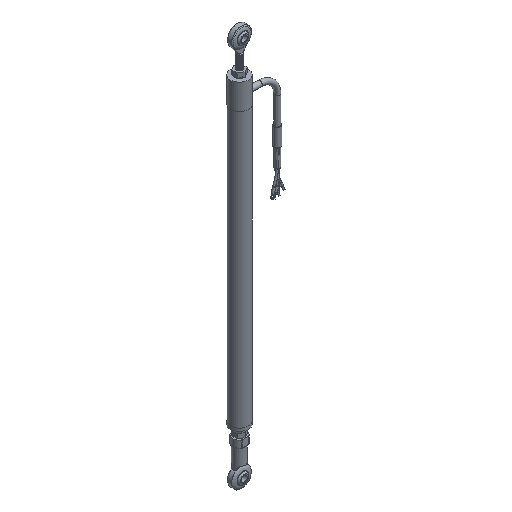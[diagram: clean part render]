
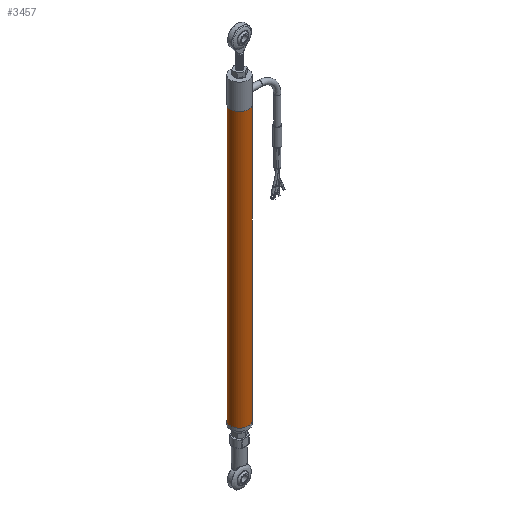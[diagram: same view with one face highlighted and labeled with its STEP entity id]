
A CAD part, isometric view. The second image highlights one B-rep face of the part: STEP entity #3457.
In plain terms, the highlighted cylindrical face has radius 6.35 mm (diameter 12.7 mm), a full revolution.
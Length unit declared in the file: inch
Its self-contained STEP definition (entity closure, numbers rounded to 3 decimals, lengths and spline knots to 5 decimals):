
#136=CYLINDRICAL_SURFACE('',#3951,0.25);
#373=LINE('',#9527,#578);
#578=VECTOR('',#4843,0.25);
#872=FACE_OUTER_BOUND('',#1100,.T.);
#1100=EDGE_LOOP('',(#3040,#3041,#3042,#3043,#3044));
#1251=CIRCLE('',#3943,0.25);
#1253=CIRCLE('',#3949,0.25);
#1254=CIRCLE('',#3950,0.25);
#1652=VERTEX_POINT('',#9470);
#1657=VERTEX_POINT('',#9521);
#1658=VERTEX_POINT('',#9523);
#2111=EDGE_CURVE('',#1652,#1652,#1251,.T.);
#2118=EDGE_CURVE('',#1658,#1657,#1253,.T.);
#2119=EDGE_CURVE('',#1657,#1658,#1254,.T.);
#2120=EDGE_CURVE('',#1652,#1658,#373,.T.);
#3040=ORIENTED_EDGE('',*,*,#2111,.F.);
#3041=ORIENTED_EDGE('',*,*,#2120,.T.);
#3042=ORIENTED_EDGE('',*,*,#2118,.T.);
#3043=ORIENTED_EDGE('',*,*,#2119,.T.);
#3044=ORIENTED_EDGE('',*,*,#2120,.F.);
#3457=ADVANCED_FACE('',(#872),#136,.T.);
#3943=AXIS2_PLACEMENT_3D('',#9472,#4823,#4824);
#3949=AXIS2_PLACEMENT_3D('',#9524,#4837,#4838);
#3950=AXIS2_PLACEMENT_3D('',#9525,#4839,#4840);
#3951=AXIS2_PLACEMENT_3D('',#9526,#4841,#4842);
#4823=DIRECTION('center_axis',(0.,0.,-1.));
#4824=DIRECTION('ref_axis',(-1.,0.,0.));
#4837=DIRECTION('center_axis',(0.,0.,-1.));
#4838=DIRECTION('ref_axis',(-1.,0.,0.));
#4839=DIRECTION('center_axis',(0.,0.,-1.));
#4840=DIRECTION('ref_axis',(-1.,0.,0.));
#4841=DIRECTION('center_axis',(0.,0.,-1.));
#4842=DIRECTION('ref_axis',(-1.,0.,0.));
#4843=DIRECTION('',(0.,0.,1.));
#9470=CARTESIAN_POINT('',(0.25,0.,-8.25984));
#9472=CARTESIAN_POINT('Origin',(0.,0.,-8.25984));
#9521=CARTESIAN_POINT('',(-0.25,0.,-0.7));
#9523=CARTESIAN_POINT('',(0.25,0.,-0.7));
#9524=CARTESIAN_POINT('Origin',(0.,0.,-0.7));
#9525=CARTESIAN_POINT('Origin',(0.,0.,-0.7));
#9526=CARTESIAN_POINT('Origin',(0.,0.,0.));
#9527=CARTESIAN_POINT('',(0.25,0.,0.));
